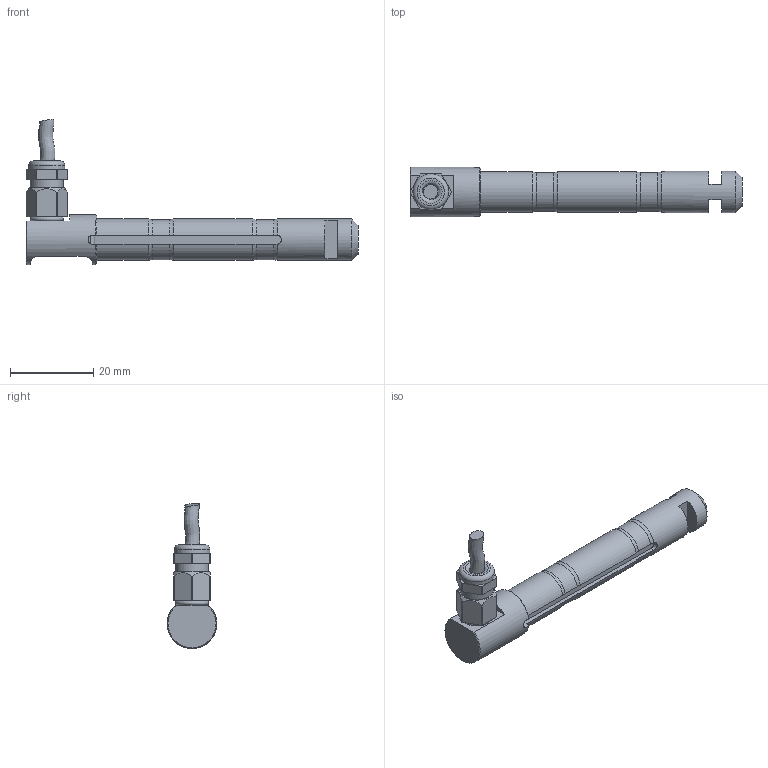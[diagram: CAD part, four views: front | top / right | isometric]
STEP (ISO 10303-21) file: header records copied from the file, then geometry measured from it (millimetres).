
FILE_DESCRIPTION(/* description */ ('Alibre Inc.'),/* implementation_level */ '2;1');
FILE_NAME(/* name */ 'export0',/* time_stamp */ '2017-08-23T11:22:21+02:00',/* author */ (''),/* organization */ (''),/* preprocessor_version */ 'ST-DEVELOPER v14',/* originating_system */ 'Alibre',/* authorisation */ '');
FILE_SCHEMA (('CONFIG_CONTROL_DESIGN'));
Length unit declared in the file: centimetre
Products named in the file (6): ID_1; ID_2; ID_3
Bounding box: 80 x 12 x 34.98 mm (x, y, z)
Volume: 6999.3 mm3; surface area: 4105.9 mm2
Topology: 4 solids, 4 shells, 110 faces, 279 edges, 183 vertices
Faces by surface type: plane 50, cylinder 41, torus 11, cone 7, bspline 1
Full cylindrical faces by diameter (mm): 3.5 x1, 4.917 x1, 6 x1, 8 x1, 8.6 x1, 10 x1, 12 x1
Entity records: 4412 total; most frequent: CARTESIAN_POINT 1494, ORIENTED_EDGE 518, DIRECTION 398, EDGE_CURVE 259, VERTEX_POINT 178, AXIS2_PLACEMENT_3D 164, FACE_BOUND 133, EDGE_LOOP 132
